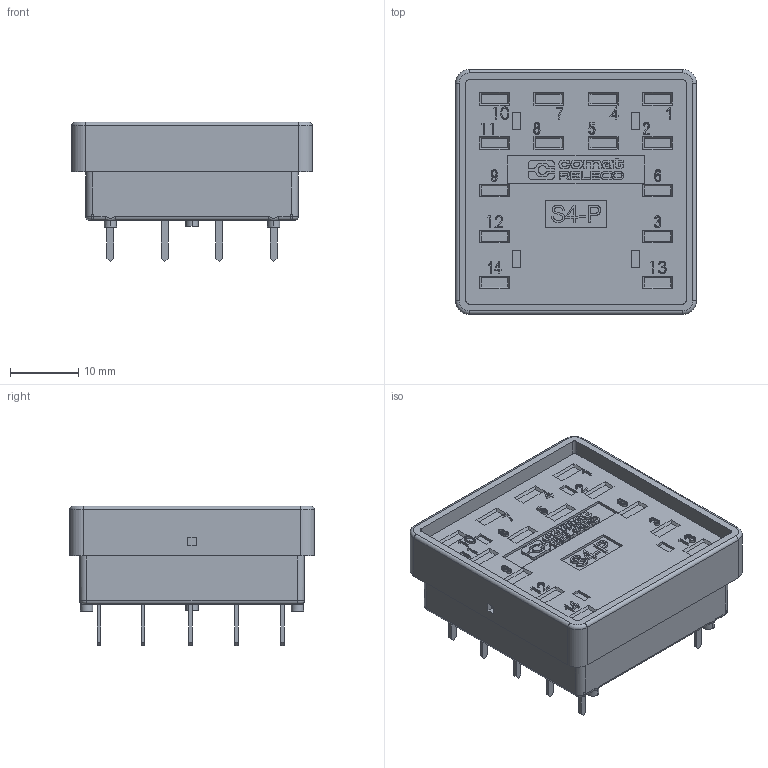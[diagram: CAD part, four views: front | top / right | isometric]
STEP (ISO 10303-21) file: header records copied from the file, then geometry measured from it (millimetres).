
FILE_DESCRIPTION (( 'STEP AP214' ), '1' );
FILE_NAME ('S4-P.STEP', '2024-04-09T10:34:12', ( '' ), ( '' ), 'SwSTEP 2.0', 'SolidWorks 2022', '' );
FILE_SCHEMA (( 'AUTOMOTIVE_DESIGN' ));
Length unit declared in the file: millimetre
Products named in the file (1): S4-P
Bounding box: 35.4 x 36 x 20.5 mm (x, y, z)
Volume: 14084.2 mm3; surface area: 5163.8 mm2
Topology: 1 solids, 1 shells, 813 faces, 2096 edges, 1388 vertices
Faces by surface type: plane 566, bspline 196, cylinder 38, torus 12, cone 1
Entity records: 32975 total; most frequent: CARTESIAN_POINT 14419, ORIENTED_EDGE 4192, DIRECTION 3006, EDGE_CURVE 2096, VECTOR 1566, LINE 1566, VERTEX_POINT 1388, EDGE_LOOP 916
